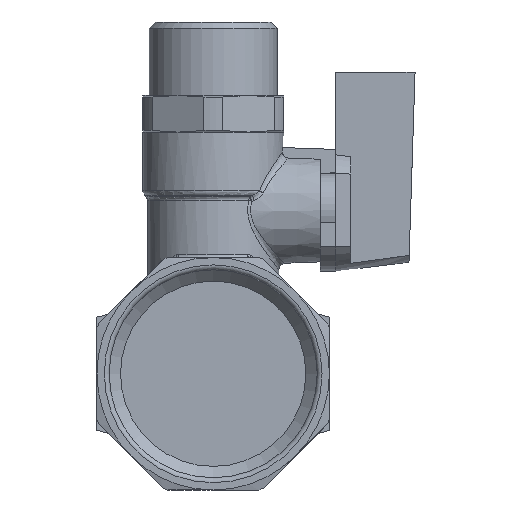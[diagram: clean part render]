
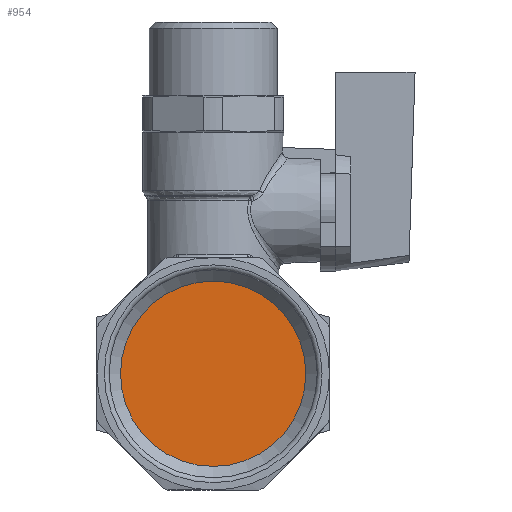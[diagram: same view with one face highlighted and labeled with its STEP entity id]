
A CAD part, front view. The second image highlights one B-rep face of the part: STEP entity #954.
In plain terms, the highlighted planar face has unit normal (0, -1, 0).
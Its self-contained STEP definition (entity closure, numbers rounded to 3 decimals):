
#954=ADVANCED_FACE('',(#12152),#12154,.T.);
#12152=FACE_BOUND('',#12153,.T.);
#12153=EDGE_LOOP('',(#19102));
#12154=PLANE('',#12155);
#12155=AXIS2_PLACEMENT_3D('',#12156,#12157,#12158);
#12156=CARTESIAN_POINT('',(0.,15.5,0.));
#12157=DIRECTION('',(0.,-1.,0.));
#12158=DIRECTION('',(0.,0.,-1.));
#19102=ORIENTED_EDGE('',*,*,#21928,.T.);
#21928=EDGE_CURVE('',#26139,#26139,#26140,.T.);
#26139=VERTEX_POINT('',#46247);
#26140=CIRCLE('',#46248,15.146);
#46247=CARTESIAN_POINT('',(0.,15.5,-15.146));
#46248=AXIS2_PLACEMENT_3D('',#46249,#46250,#46251);
#46249=CARTESIAN_POINT('',(0.,15.5,0.));
#46250=DIRECTION('',(0.,-1.,0.));
#46251=DIRECTION('',(0.,0.,-1.));
